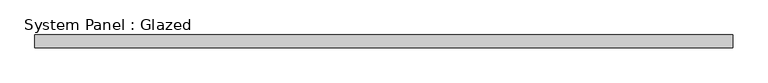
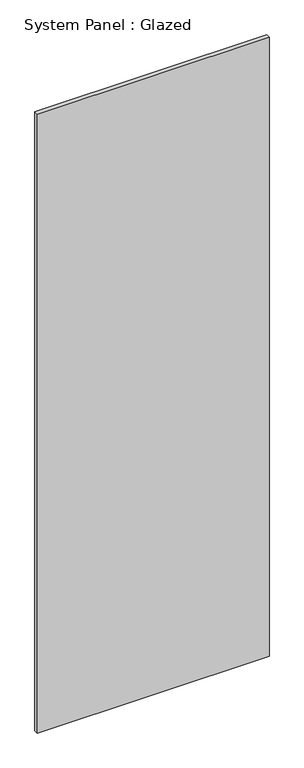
"""IFC4 building model written with IfcOpenShell, lengths in millimetres: plate geometry, System Panel : Glazed."""

from ifc_helpers import new_model, si_unit, origin, origin_with_axes, place, context, project, spatial, polyline, outline, extrude, source, transform, mapped, element, save


def system_panel_glazed_78b5b18d(model_context):
    return source(origin(), model_context, "Body", "SweptSolid", [
        extrude(outline(polyline([(691.7836538, 19.05), (-691.7836538, 19.05), (-691.7836538, 44.45), (691.7836538, 44.45), (691.7836538, 19.05)])), origin_with_axes(), (0.0, 0.0, 1.0), 3908.2835741),
    ])


if __name__ == "__main__":
    model = new_model("IFC4")
    model_context = context("Model", 3, world=origin())
    ifc_project = project(units=[si_unit("LENGTHUNIT", "METRE", prefix="MILLI")], contexts=[model_context])
    site = spatial("IfcSite", under=ifc_project)
    building = spatial("IfcBuilding", under=site)
    placement = place(None, origin())
    system_panel_glazed_shape = system_panel_glazed_78b5b18d(model_context)
    element("IfcPlate", 1, ObjectType="System Panel : Glazed", at=placement, inside=building, context=model_context, shape_type="MappedRepresentation", body=[
        mapped(system_panel_glazed_shape, transform((0.0, 0.0, 0.0), x_axis=(1.0, 0.0, 0.0), y_axis=(0.0, 1.0, 0.0), z_axis=(0.0, 0.0, 1.0))),
    ])
    save(model, "model.ifc")
